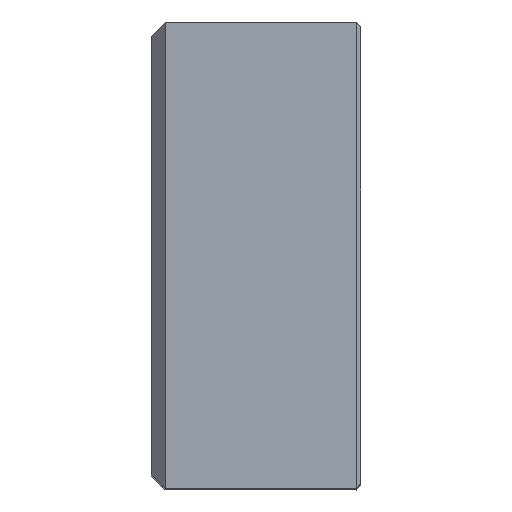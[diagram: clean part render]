
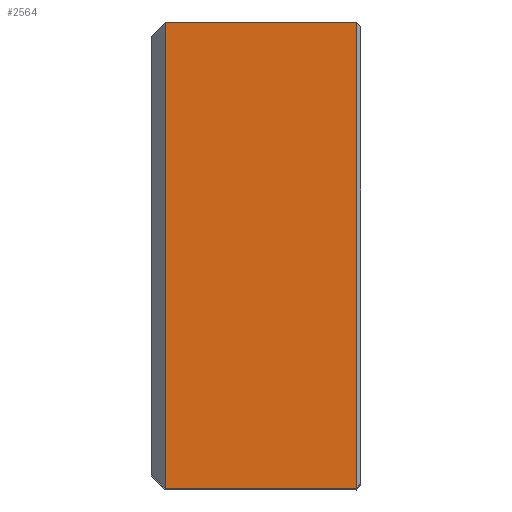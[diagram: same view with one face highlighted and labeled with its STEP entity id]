
A CAD part, top view. The second image highlights one B-rep face of the part: STEP entity #2564.
In plain terms, the highlighted planar face has unit normal (0, 0, 1).
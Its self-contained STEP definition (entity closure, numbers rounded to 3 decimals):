
#223=VERTEX_POINT(' ',#224);
#224=CARTESIAN_POINT('',(44.,-50.,0.));
#233=VERTEX_POINT(' ',#234);
#234=CARTESIAN_POINT('',(44.,50.,0.));
#267=VERTEX_POINT(' ',#268);
#268=CARTESIAN_POINT('',(3.,-50.,0.));
#275=VERTEX_POINT(' ',#276);
#276=CARTESIAN_POINT('',(3.,50.,0.));
#1127=LINE('',#1128,#1129);
#1128=CARTESIAN_POINT('',(44.,55.657,0.));
#1129=VECTOR('',#1130,1.);
#1130=DIRECTION('',(0.,-1.,0.));
#1131=EDGE_CURVE(' ',#233,#223,#1127,.T.);
#1291=LINE('',#1292,#1293);
#1292=CARTESIAN_POINT('',(45.12,-50.,0.));
#1293=VECTOR('',#1294,1.);
#1294=DIRECTION('',(-1.,0.,0.));
#1295=EDGE_CURVE(' ',#223,#267,#1291,.T.);
#1330=LINE('',#1331,#1332);
#1331=CARTESIAN_POINT('',(3.,-63.971,0.));
#1332=VECTOR('',#1333,1.);
#1333=DIRECTION('',(0.,1.,0.));
#1334=EDGE_CURVE(' ',#267,#275,#1330,.T.);
#1335=LINE('',#1336,#1337);
#1336=CARTESIAN_POINT('',(45.12,50.,0.));
#1337=VECTOR('',#1338,1.);
#1338=DIRECTION('',(-1.,0.,0.));
#1339=EDGE_CURVE(' ',#233,#275,#1335,.T.);
#2553=ORIENTED_EDGE('',*,*,#1334,.F.);
#2554=ORIENTED_EDGE('',*,*,#1295,.F.);
#2555=ORIENTED_EDGE('',*,*,#1131,.F.);
#2556=ORIENTED_EDGE('',*,*,#1339,.T.);
#2557=EDGE_LOOP('',(#2553,#2554,#2555,#2556));
#2558=FACE_OUTER_BOUND('',#2557,.T.);
#2559=PLANE('',#2560);
#2560=AXIS2_PLACEMENT_3D('',#2561,#2562,#2563);
#2561=CARTESIAN_POINT('',(0.,-50.,0.));
#2562=DIRECTION('',(0.,0.,1.));
#2563=DIRECTION('',(0.,1.,0.));
#2564=ADVANCED_FACE('',(#2558),#2559,.T.);
